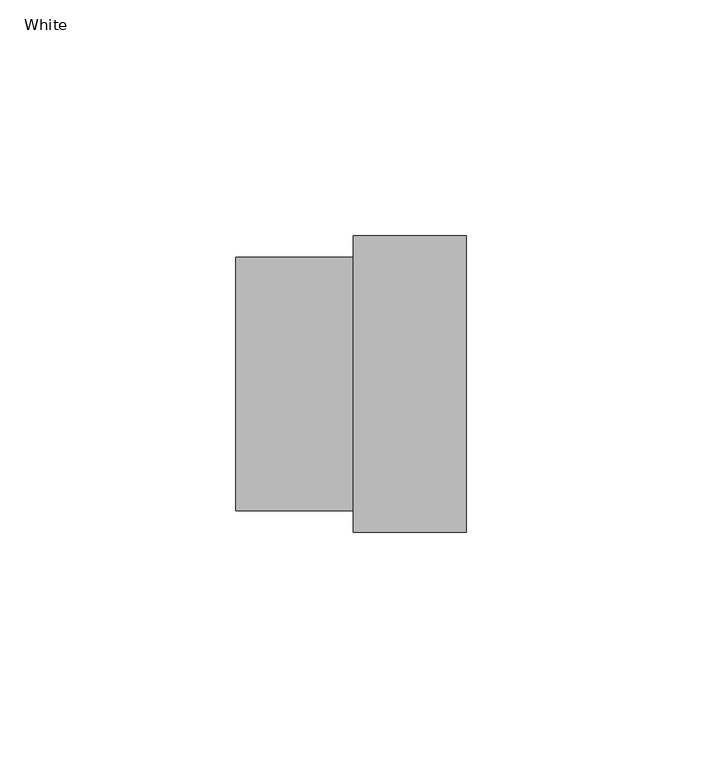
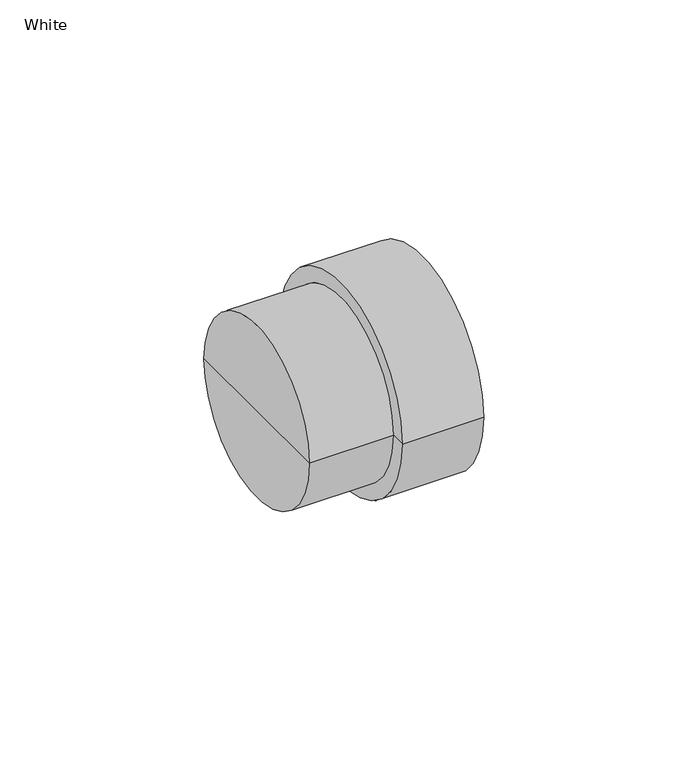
"""IFC4 building model written with IfcOpenShell, lengths in millimetres: pipe fitting geometry, Wavin_PipeFitting_OsmaWastePpSAccessPlug : White."""

from ifc_helpers import new_model, si_unit, frame, origin, place, context, project, spatial, circle_curve, source, transform, mapped, element, save
from ifc_brep_helpers import plane_surface, cylinder_surface, advanced_brep


def white_7a7d4569(model_context):
    return source(origin(), model_context, "Body", "AdvancedBrep", [
        advanced_brep(
        [(-49.0, 0.0, 0.0), (-49.0, 26.95, 0.0), (-49.0, -26.95, 0.0), (0.0, -31.5, 0.0), (0.0, 31.5, 0.0), (0.0, 0.0, 0.0), (-24.0, -31.5, 0.0), (-24.0, 31.5, 0.0), (-24.0, -26.95, 0.0), (-24.0, 26.95, 0.0)],
        [
            (0, 1),
            (1, 2, circle_curve(frame((-49.0, 0.0, 0.0), z_axis=(-1.0, 0.0, 0.0), x_axis=(0.0, 1.0, 0.0)), 26.95)),
            (2, 0),
            (2, 1, circle_curve(frame((-49.0, 0.0, 0.0), z_axis=(-1.0, 0.0, 0.0), x_axis=(0.0, 1.0, 0.0)), 26.95)),
            (3, 4, circle_curve(frame((0.0, 0.0, 0.0), z_axis=(1.0, 0.0, 0.0), x_axis=(0.0, 1.0, 0.0)), 31.5)),
            (4, 5),
            (5, 3),
            (4, 3, circle_curve(frame((0.0, 0.0, 0.0), z_axis=(1.0, 0.0, 0.0), x_axis=(0.0, 1.0, 0.0)), 31.5)),
            (6, 7, circle_curve(frame((-24.0, 0.0, 0.0), z_axis=(1.0, 0.0, 0.0), x_axis=(0.0, 1.0, 0.0)), 31.5)),
            (7, 4),
            (3, 6),
            (7, 6, circle_curve(frame((-24.0, 0.0, 0.0), z_axis=(1.0, 0.0, 0.0), x_axis=(0.0, 1.0, 0.0)), 31.5)),
            (8, 9, circle_curve(frame((-24.0, 0.0, 0.0), z_axis=(1.0, 0.0, 0.0), x_axis=(0.0, 1.0, 0.0)), 26.95)),
            (9, 7),
            (6, 8),
            (9, 8, circle_curve(frame((-24.0, 0.0, 0.0), z_axis=(1.0, 0.0, 0.0), x_axis=(0.0, 1.0, 0.0)), 26.95)),
            (1, 9),
            (8, 2),
        ],
        [
            plane_surface(frame((-49.0, 0.0, 0.0), z_axis=(-1.0, 0.0, 0.0), x_axis=(0.0, 1.0, 0.0))),
            plane_surface(frame((0.0, 0.0, 0.0), z_axis=(1.0, 0.0, 0.0), x_axis=(0.0, 1.0, 0.0))),
            cylinder_surface(frame((1933.0, 0.0, 0.0), z_axis=(-1.0, 0.0, 0.0), x_axis=(0.0, 1.0, 0.0)), 31.5),
            plane_surface(frame((-24.0, 0.0, 0.0), z_axis=(-1.0, 0.0, 0.0), x_axis=(0.0, 1.0, 0.0))),
            cylinder_surface(frame((1933.0, 0.0, 0.0), z_axis=(-1.0, 0.0, 0.0), x_axis=(0.0, 1.0, 0.0)), 26.95),
        ],
        [
            (0, [[1, 2, 3]]),
            (0, [[-3, 4, -1]]),
            (1, [[5, 6, 7]]),
            (1, [[8, -7, -6]]),
            (2, [[9, 10, -5, 11]]),
            (2, [[12, -11, -8, -10]]),
            (3, [[13, 14, -9, 15]]),
            (3, [[16, -15, -12, -14]]),
            (4, [[-2, 17, -13, 18]]),
            (4, [[-4, -18, -16, -17]]),
        ],
    ),
    ])


if __name__ == "__main__":
    model = new_model("IFC4")
    model_context = context("Model", 3, world=origin())
    ifc_project = project(units=[si_unit("LENGTHUNIT", "METRE", prefix="MILLI")], contexts=[model_context])
    site = spatial("IfcSite", under=ifc_project)
    building = spatial("IfcBuilding", under=site)
    placement = place(None, origin())
    white_shape = white_7a7d4569(model_context)
    element("IfcPipeFitting", 1, ObjectType="Wavin_PipeFitting_OsmaWastePpSAccessPlug : White", at=placement, inside=building, context=model_context, shape_type="MappedRepresentation", body=[
        mapped(white_shape, transform((0.0, 0.0, 0.0), x_axis=(1.0, 0.0, 0.0), y_axis=(0.0, 1.0, 0.0), z_axis=(0.0, 0.0, 1.0))),
    ])
    save(model, "model.ifc")
